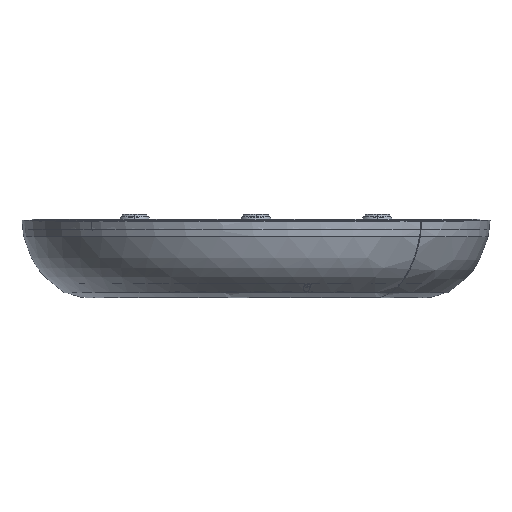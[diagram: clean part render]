
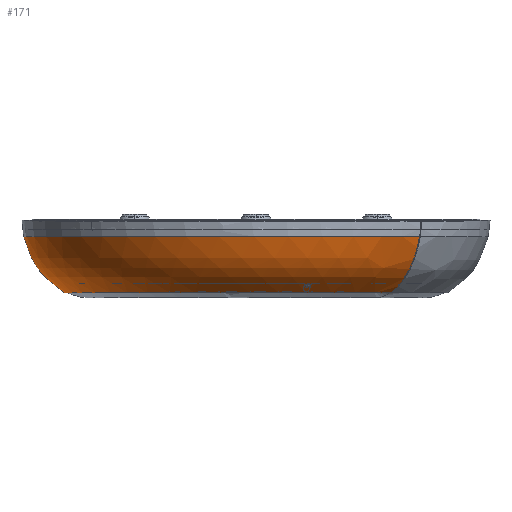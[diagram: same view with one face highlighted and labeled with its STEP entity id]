
A CAD part, front view. The second image highlights one B-rep face of the part: STEP entity #171.
In plain terms, the highlighted free-form (B-spline) face has degree [2, 2] with [9, 9] control points.
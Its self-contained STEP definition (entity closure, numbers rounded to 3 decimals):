
#171=ADVANCED_FACE('',(#528),#5775,.T.);
#528=FACE_OUTER_BOUND('',#886,.T.);
#886=EDGE_LOOP('',(#1363,#1364,#1365,#1366));
#1363=ORIENTED_EDGE('',*,*,#3213,.T.);
#1364=ORIENTED_EDGE('',*,*,#3209,.T.);
#1365=ORIENTED_EDGE('',*,*,#3208,.F.);
#1366=ORIENTED_EDGE('',*,*,#3210,.F.);
#3208=EDGE_CURVE('',#5060,#5057,#4608,.T.);
#3209=EDGE_CURVE('',#5064,#5057,#4609,.T.);
#3210=EDGE_CURVE('',#5063,#5060,#4610,.T.);
#3213=EDGE_CURVE('',#5063,#5064,#4613,.T.);
#4608=(
BOUNDED_CURVE()
B_SPLINE_CURVE(2,(#7388,#7389,#7390,#7391,#7392),.UNSPECIFIED.,.F.,.F.)
B_SPLINE_CURVE_WITH_KNOTS((3,2,3),(0.,219.129,438.258),
 .UNSPECIFIED.)
CURVE()
GEOMETRIC_REPRESENTATION_ITEM()
RATIONAL_B_SPLINE_CURVE((1.,0.707,1.,0.707,1.))
REPRESENTATION_ITEM('')
);
#4609=(
BOUNDED_CURVE()
B_SPLINE_CURVE(2,(#7393,#7394,#7395),.UNSPECIFIED.,.F.,.F.)
B_SPLINE_CURVE_WITH_KNOTS((3,3),(0.,67.491),.UNSPECIFIED.)
CURVE()
GEOMETRIC_REPRESENTATION_ITEM()
RATIONAL_B_SPLINE_CURVE((1.,0.914,1.))
REPRESENTATION_ITEM('')
);
#4610=(
BOUNDED_CURVE()
B_SPLINE_CURVE(2,(#7396,#7397,#7398),.UNSPECIFIED.,.F.,.F.)
B_SPLINE_CURVE_WITH_KNOTS((3,3),(439.189,506.68),
 .UNSPECIFIED.)
CURVE()
GEOMETRIC_REPRESENTATION_ITEM()
RATIONAL_B_SPLINE_CURVE((1.,0.914,1.))
REPRESENTATION_ITEM('')
);
#4613=(
BOUNDED_CURVE()
B_SPLINE_CURVE(2,(#7409,#7410,#7411,#7412,#7413),.UNSPECIFIED.,.F.,.F.)
B_SPLINE_CURVE_WITH_KNOTS((3,2,3),(-565.487,-282.743,
0.),.UNSPECIFIED.)
CURVE()
GEOMETRIC_REPRESENTATION_ITEM()
RATIONAL_B_SPLINE_CURVE((1.,0.707,1.,0.707,1.))
REPRESENTATION_ITEM('')
);
#5057=VERTEX_POINT('',#7315);
#5060=VERTEX_POINT('',#7318);
#5063=VERTEX_POINT('',#7321);
#5064=VERTEX_POINT('',#7322);
#5775=(
BOUNDED_SURFACE()
B_SPLINE_SURFACE(2,2,((#7009,#7010,#7011,#7012,#7013,#7014,#7015,#7016,
#7017),(#7018,#7019,#7020,#7021,#7022,#7023,#7024,#7025,#7026),(#7027,#7028,
#7029,#7030,#7031,#7032,#7033,#7034,#7035),(#7036,#7037,#7038,#7039,#7040,
#7041,#7042,#7043,#7044),(#7045,#7046,#7047,#7048,#7049,#7050,#7051,#7052,
#7053),(#7054,#7055,#7056,#7057,#7058,#7059,#7060,#7061,#7062),(#7063,#7064,
#7065,#7066,#7067,#7068,#7069,#7070,#7071),(#7072,#7073,#7074,#7075,#7076,
#7077,#7078,#7079,#7080),(#7081,#7082,#7083,#7084,#7085,#7086,#7087,#7088,
#7089)),.UNSPECIFIED.,.T.,.F.,.F.)
B_SPLINE_SURFACE_WITH_KNOTS((3,2,2,2,3),(3,2,2,2,3),(0.,219.129,
438.258,657.387,876.516),(0.,126.67,
253.34,380.01,506.68),.UNSPECIFIED.)
GEOMETRIC_REPRESENTATION_ITEM()
RATIONAL_B_SPLINE_SURFACE(((1.,0.707,1.,0.707,1.,
0.707,1.,0.707,1.),(0.707,0.5,0.707,
0.5,0.707,0.5,0.707,0.5,0.707),(1.,
0.707,1.,0.707,1.,0.707,1.,0.707,
1.),(0.707,0.5,0.707,0.5,0.707,0.5,
0.707,0.5,0.707),(1.,0.707,1.,0.707,
1.,0.707,1.,0.707,1.),(0.707,0.5,0.707,
0.5,0.707,0.5,0.707,0.5,0.707),(1.,
0.707,1.,0.707,1.,0.707,1.,0.707,
1.),(0.707,0.5,0.707,0.5,0.707,0.5,
0.707,0.5,0.707),(1.,0.707,1.,0.707,
1.,0.707,1.,0.707,1.)))
REPRESENTATION_ITEM('')
SURFACE()
);
#7009=CARTESIAN_POINT('',(-218.409,-15.316,0.));
#7010=CARTESIAN_POINT('',(-235.039,63.591,0.));
#7011=CARTESIAN_POINT('',(-156.132,80.221,0.));
#7012=CARTESIAN_POINT('',(-77.224,96.851,0.));
#7013=CARTESIAN_POINT('',(-60.595,17.943,0.));
#7014=CARTESIAN_POINT('',(-43.965,-60.964,0.));
#7015=CARTESIAN_POINT('',(-122.872,-77.593,0.));
#7016=CARTESIAN_POINT('',(-201.779,-94.223,0.));
#7017=CARTESIAN_POINT('',(-218.409,-15.316,0.));
#7018=CARTESIAN_POINT('',(-218.409,-15.316,218.409));
#7019=CARTESIAN_POINT('',(-235.039,63.591,235.039));
#7020=CARTESIAN_POINT('',(-156.132,80.221,156.132));
#7021=CARTESIAN_POINT('',(-77.224,96.851,77.224));
#7022=CARTESIAN_POINT('',(-60.595,17.943,60.595));
#7023=CARTESIAN_POINT('',(-43.965,-60.964,43.965));
#7024=CARTESIAN_POINT('',(-122.872,-77.593,122.872));
#7025=CARTESIAN_POINT('',(-201.779,-94.223,201.779));
#7026=CARTESIAN_POINT('',(-218.409,-15.316,218.409));
#7027=CARTESIAN_POINT('',(0.,-15.316,218.409));
#7028=CARTESIAN_POINT('',(0.,63.591,235.039));
#7029=CARTESIAN_POINT('',(0.,80.221,156.132));
#7030=CARTESIAN_POINT('',(0.,96.851,77.224));
#7031=CARTESIAN_POINT('',(0.,17.943,60.595));
#7032=CARTESIAN_POINT('',(0.,-60.964,43.965));
#7033=CARTESIAN_POINT('',(0.,-77.593,122.872));
#7034=CARTESIAN_POINT('',(0.,-94.223,201.779));
#7035=CARTESIAN_POINT('',(0.,-15.316,218.409));
#7036=CARTESIAN_POINT('',(218.409,-15.316,218.409));
#7037=CARTESIAN_POINT('',(235.039,63.591,235.039));
#7038=CARTESIAN_POINT('',(156.132,80.221,156.132));
#7039=CARTESIAN_POINT('',(77.224,96.851,77.224));
#7040=CARTESIAN_POINT('',(60.595,17.943,60.595));
#7041=CARTESIAN_POINT('',(43.965,-60.964,43.965));
#7042=CARTESIAN_POINT('',(122.872,-77.593,122.872));
#7043=CARTESIAN_POINT('',(201.779,-94.223,201.779));
#7044=CARTESIAN_POINT('',(218.409,-15.316,218.409));
#7045=CARTESIAN_POINT('',(218.409,-15.316,0.));
#7046=CARTESIAN_POINT('',(235.039,63.591,0.));
#7047=CARTESIAN_POINT('',(156.132,80.221,0.));
#7048=CARTESIAN_POINT('',(77.224,96.851,0.));
#7049=CARTESIAN_POINT('',(60.595,17.943,0.));
#7050=CARTESIAN_POINT('',(43.965,-60.964,0.));
#7051=CARTESIAN_POINT('',(122.872,-77.593,0.));
#7052=CARTESIAN_POINT('',(201.779,-94.223,0.));
#7053=CARTESIAN_POINT('',(218.409,-15.316,0.));
#7054=CARTESIAN_POINT('',(218.409,-15.316,-218.409));
#7055=CARTESIAN_POINT('',(235.039,63.591,-235.039));
#7056=CARTESIAN_POINT('',(156.132,80.221,-156.132));
#7057=CARTESIAN_POINT('',(77.224,96.851,-77.224));
#7058=CARTESIAN_POINT('',(60.595,17.943,-60.595));
#7059=CARTESIAN_POINT('',(43.965,-60.964,-43.965));
#7060=CARTESIAN_POINT('',(122.872,-77.593,-122.872));
#7061=CARTESIAN_POINT('',(201.779,-94.223,-201.779));
#7062=CARTESIAN_POINT('',(218.409,-15.316,-218.409));
#7063=CARTESIAN_POINT('',(0.,-15.316,-218.409));
#7064=CARTESIAN_POINT('',(0.,63.591,-235.039));
#7065=CARTESIAN_POINT('',(0.,80.221,-156.132));
#7066=CARTESIAN_POINT('',(0.,96.851,-77.224));
#7067=CARTESIAN_POINT('',(0.,17.943,-60.595));
#7068=CARTESIAN_POINT('',(0.,-60.964,-43.965));
#7069=CARTESIAN_POINT('',(0.,-77.593,-122.872));
#7070=CARTESIAN_POINT('',(0.,-94.223,-201.779));
#7071=CARTESIAN_POINT('',(0.,-15.316,-218.409));
#7072=CARTESIAN_POINT('',(-218.409,-15.316,-218.409));
#7073=CARTESIAN_POINT('',(-235.039,63.591,-235.039));
#7074=CARTESIAN_POINT('',(-156.132,80.221,-156.132));
#7075=CARTESIAN_POINT('',(-77.224,96.851,-77.224));
#7076=CARTESIAN_POINT('',(-60.595,17.943,-60.595));
#7077=CARTESIAN_POINT('',(-43.965,-60.964,-43.965));
#7078=CARTESIAN_POINT('',(-122.872,-77.593,-122.872));
#7079=CARTESIAN_POINT('',(-201.779,-94.223,-201.779));
#7080=CARTESIAN_POINT('',(-218.409,-15.316,-218.409));
#7081=CARTESIAN_POINT('',(-218.409,-15.316,0.));
#7082=CARTESIAN_POINT('',(-235.039,63.591,0.));
#7083=CARTESIAN_POINT('',(-156.132,80.221,0.));
#7084=CARTESIAN_POINT('',(-77.224,96.851,0.));
#7085=CARTESIAN_POINT('',(-60.595,17.943,0.));
#7086=CARTESIAN_POINT('',(-43.965,-60.964,0.));
#7087=CARTESIAN_POINT('',(-122.872,-77.593,0.));
#7088=CARTESIAN_POINT('',(-201.779,-94.223,0.));
#7089=CARTESIAN_POINT('',(-218.409,-15.316,0.));
#7315=CARTESIAN_POINT('',(218.409,-15.316,0.));
#7318=CARTESIAN_POINT('',(-218.409,-15.316,0.));
#7321=CARTESIAN_POINT('',(-180.,-68.42,0.));
#7322=CARTESIAN_POINT('',(180.,-68.42,0.));
#7388=CARTESIAN_POINT('',(-218.409,-15.316,0.));
#7389=CARTESIAN_POINT('',(-218.409,-15.316,218.409));
#7390=CARTESIAN_POINT('',(0.,-15.316,218.409));
#7391=CARTESIAN_POINT('',(218.409,-15.316,218.409));
#7392=CARTESIAN_POINT('',(218.409,-15.316,0.));
#7393=CARTESIAN_POINT('',(180.,-68.42,0.));
#7394=CARTESIAN_POINT('',(211.013,-50.409,0.));
#7395=CARTESIAN_POINT('',(218.409,-15.316,0.));
#7396=CARTESIAN_POINT('',(-180.,-68.42,0.));
#7397=CARTESIAN_POINT('',(-211.013,-50.409,0.));
#7398=CARTESIAN_POINT('',(-218.409,-15.316,0.));
#7409=CARTESIAN_POINT('',(-180.,-68.42,0.));
#7410=CARTESIAN_POINT('',(-180.,-68.42,180.));
#7411=CARTESIAN_POINT('',(0.,-68.42,180.));
#7412=CARTESIAN_POINT('',(180.,-68.42,180.));
#7413=CARTESIAN_POINT('',(180.,-68.42,0.));
